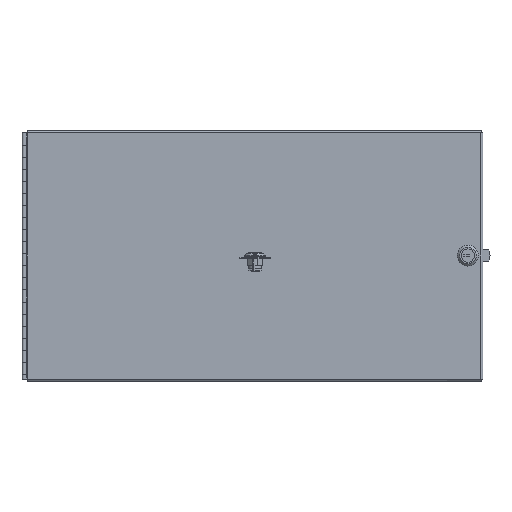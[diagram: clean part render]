
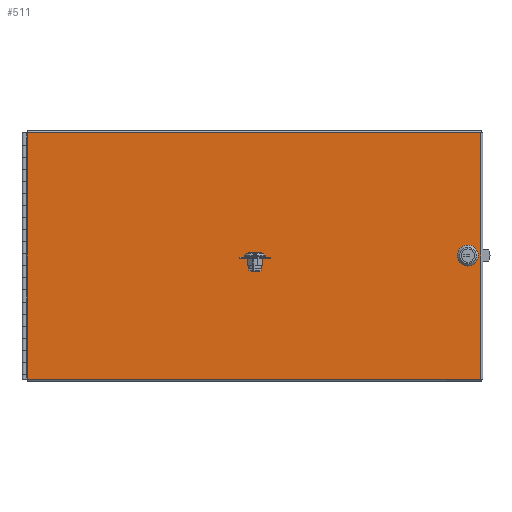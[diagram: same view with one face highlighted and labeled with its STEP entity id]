
A CAD part, front view. The second image highlights one B-rep face of the part: STEP entity #511.
In plain terms, the highlighted planar face has unit normal (0, -1, 0).
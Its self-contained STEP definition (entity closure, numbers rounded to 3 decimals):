
#511 = ADVANCED_FACE( '', ( #900, #901 ), #902, .T. );
#900 = FACE_BOUND( '', #1392, .T. );
#901 = FACE_OUTER_BOUND( '', #1393, .T. );
#902 = PLANE( '', #1394 );
#1392 = EDGE_LOOP( '', ( #2902, #2903, #2904, #2905, #2906, #2907, #2908, #2909 ) );
#1393 = EDGE_LOOP( '', ( #2910, #2911, #2912, #2913 ) );
#1394 = AXIS2_PLACEMENT_3D( '', #2914, #2915, #2916 );
#2902 = ORIENTED_EDGE( '', *, *, #4033, .F. );
#2903 = ORIENTED_EDGE( '', *, *, #4035, .F. );
#2904 = ORIENTED_EDGE( '', *, *, #4036, .F. );
#2905 = ORIENTED_EDGE( '', *, *, #4037, .F. );
#2906 = ORIENTED_EDGE( '', *, *, #4038, .F. );
#2907 = ORIENTED_EDGE( '', *, *, #4039, .F. );
#2908 = ORIENTED_EDGE( '', *, *, #4040, .F. );
#2909 = ORIENTED_EDGE( '', *, *, #4029, .F. );
#2910 = ORIENTED_EDGE( '', *, *, #4041, .T. );
#2911 = ORIENTED_EDGE( '', *, *, #4042, .F. );
#2912 = ORIENTED_EDGE( '', *, *, #4043, .F. );
#2913 = ORIENTED_EDGE( '', *, *, #4044, .T. );
#2914 = CARTESIAN_POINT( '', ( -239.713, 0., -131.763 ) );
#2915 = DIRECTION( '', ( 0., -1., 0. ) );
#2916 = DIRECTION( '', ( 0., 0., -1. ) );
#4029 = EDGE_CURVE( '', #4939, #4941, #4942, .T. );
#4033 = EDGE_CURVE( '', #4947, #4939, #4949, .T. );
#4035 = EDGE_CURVE( '', #4951, #4947, #4952, .T. );
#4036 = EDGE_CURVE( '', #4953, #4951, #4954, .T. );
#4037 = EDGE_CURVE( '', #4955, #4953, #4956, .T. );
#4038 = EDGE_CURVE( '', #4957, #4955, #4958, .T. );
#4039 = EDGE_CURVE( '', #4959, #4957, #4960, .T. );
#4040 = EDGE_CURVE( '', #4941, #4959, #4961, .T. );
#4041 = EDGE_CURVE( '', #4962, #4963, #4964, .T. );
#4042 = EDGE_CURVE( '', #4965, #4963, #4966, .T. );
#4043 = EDGE_CURVE( '', #4967, #4965, #4968, .T. );
#4044 = EDGE_CURVE( '', #4967, #4962, #4969, .T. );
#4939 = VERTEX_POINT( '', #6307 );
#4941 = VERTEX_POINT( '', #6310 );
#4942 = LINE( '', #6311, #6312 );
#4947 = VERTEX_POINT( '', #6319 );
#4949 = LINE( '', #6322, #6323 );
#4951 = VERTEX_POINT( '', #6326 );
#4952 = LINE( '', #6327, #6328 );
#4953 = VERTEX_POINT( '', #6329 );
#4954 = LINE( '', #6330, #6331 );
#4955 = VERTEX_POINT( '', #6332 );
#4956 = LINE( '', #6333, #6334 );
#4957 = VERTEX_POINT( '', #6335 );
#4958 = LINE( '', #6336, #6337 );
#4959 = VERTEX_POINT( '', #6338 );
#4960 = LINE( '', #6339, #6340 );
#4961 = LINE( '', #6341, #6342 );
#4962 = VERTEX_POINT( '', #6343 );
#4963 = VERTEX_POINT( '', #6344 );
#4964 = LINE( '', #6345, #6346 );
#4965 = VERTEX_POINT( '', #6347 );
#4966 = LINE( '', #6348, #6349 );
#4967 = VERTEX_POINT( '', #6350 );
#4968 = LINE( '', #6351, #6352 );
#4969 = LINE( '', #6353, #6354 );
#6307 = CARTESIAN_POINT( '', ( 215.43, 0., -1.92 ) );
#6310 = CARTESIAN_POINT( '', ( 221.918, 0., -8.407 ) );
#6311 = CARTESIAN_POINT( '', ( 215.43, 0., -1.92 ) );
#6312 = VECTOR( '', #7511, 1000. );
#6319 = CARTESIAN_POINT( '', ( 215.43, 0., 1.92 ) );
#6322 = CARTESIAN_POINT( '', ( 215.43, 0., 1.92 ) );
#6323 = VECTOR( '', #7515, 1000. );
#6326 = CARTESIAN_POINT( '', ( 221.918, 0., 8.407 ) );
#6327 = CARTESIAN_POINT( '', ( 221.918, 0., 8.407 ) );
#6328 = VECTOR( '', #7517, 1000. );
#6329 = CARTESIAN_POINT( '', ( 225.757, 0., 8.407 ) );
#6330 = CARTESIAN_POINT( '', ( 225.757, 0., 8.407 ) );
#6331 = VECTOR( '', #7518, 1000. );
#6332 = CARTESIAN_POINT( '', ( 232.245, 0., 1.92 ) );
#6333 = CARTESIAN_POINT( '', ( 232.245, 0., 1.92 ) );
#6334 = VECTOR( '', #7519, 1000. );
#6335 = CARTESIAN_POINT( '', ( 232.245, 0., -1.92 ) );
#6336 = CARTESIAN_POINT( '', ( 232.245, 0., -1.92 ) );
#6337 = VECTOR( '', #7520, 1000. );
#6338 = CARTESIAN_POINT( '', ( 225.757, 0., -8.407 ) );
#6339 = CARTESIAN_POINT( '', ( 225.757, 0., -8.407 ) );
#6340 = VECTOR( '', #7521, 1000. );
#6341 = CARTESIAN_POINT( '', ( 221.918, 0., -8.407 ) );
#6342 = VECTOR( '', #7522, 1000. );
#6343 = CARTESIAN_POINT( '', ( -239.713, 0., -129.578 ) );
#6344 = CARTESIAN_POINT( '', ( 237.528, 0., -129.578 ) );
#6345 = CARTESIAN_POINT( '', ( -239.713, 0., -129.578 ) );
#6346 = VECTOR( '', #7523, 1000. );
#6347 = CARTESIAN_POINT( '', ( 237.528, 0., 129.578 ) );
#6348 = CARTESIAN_POINT( '', ( 237.528, 0., 129.578 ) );
#6349 = VECTOR( '', #7524, 1000. );
#6350 = CARTESIAN_POINT( '', ( -239.713, 0., 129.578 ) );
#6351 = CARTESIAN_POINT( '', ( -239.713, 0., 129.578 ) );
#6352 = VECTOR( '', #7525, 1000. );
#6353 = CARTESIAN_POINT( '', ( -239.713, 0., 131.763 ) );
#6354 = VECTOR( '', #7526, 1000. );
#7511 = DIRECTION( '', ( 0.707, 0., -0.707 ) );
#7515 = DIRECTION( '', ( 0., 0., -1. ) );
#7517 = DIRECTION( '', ( -0.707, 0., -0.707 ) );
#7518 = DIRECTION( '', ( -1., 0., 0. ) );
#7519 = DIRECTION( '', ( -0.707, 0., 0.707 ) );
#7520 = DIRECTION( '', ( 0., 0., 1. ) );
#7521 = DIRECTION( '', ( 0.707, 0., 0.707 ) );
#7522 = DIRECTION( '', ( 1., 0., 0. ) );
#7523 = DIRECTION( '', ( 1., 0., 0. ) );
#7524 = DIRECTION( '', ( 0., 0., -1. ) );
#7525 = DIRECTION( '', ( 1., 0., 0. ) );
#7526 = DIRECTION( '', ( 0., 0., -1. ) );
